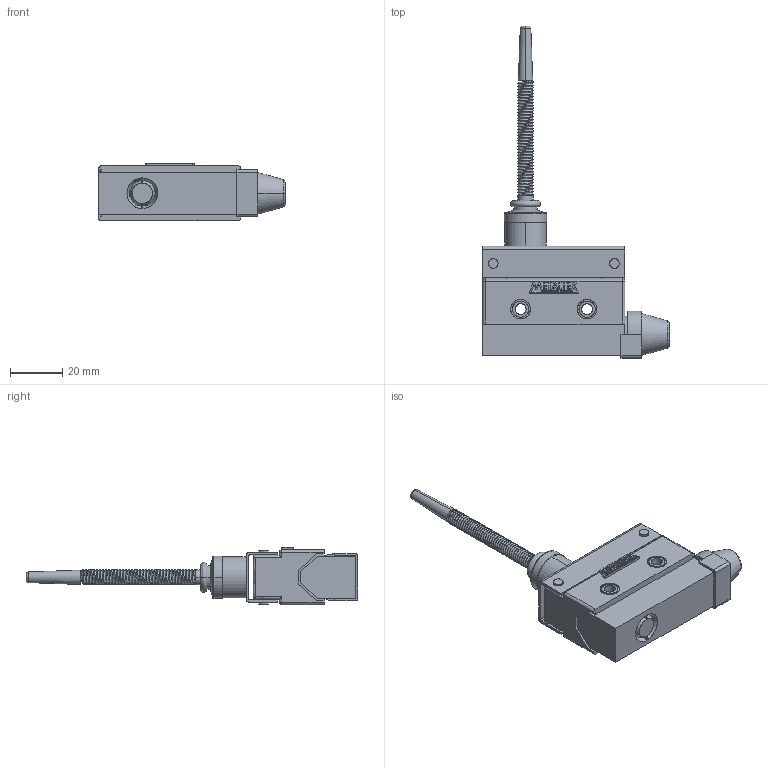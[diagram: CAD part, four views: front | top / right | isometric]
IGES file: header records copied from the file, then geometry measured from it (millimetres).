
Start section: SolidWorks IGES file using analytic representation for surfaces
Global section: file name: D:\X - Arquivos\PROEX\Empresas\P11 - METALTEX\01 - Produtos\IGES\4ª remessa\6ª etapa\FM7166.IGS; native system: SolidWorks 2012; preprocessor: SolidWorks 2012; author: Usuario; date: 180620.132247; units: millimetre
Bounding box: 71.5 x 127.3 x 22 mm (x, y, z)
Surface area: 18174.6 mm2 (no closed solid volume)
Topology: 0 solids, 0 shells, 345 faces, 4216 edges, 4204 vertices
Faces by surface type: bspline 228, revolution 117
